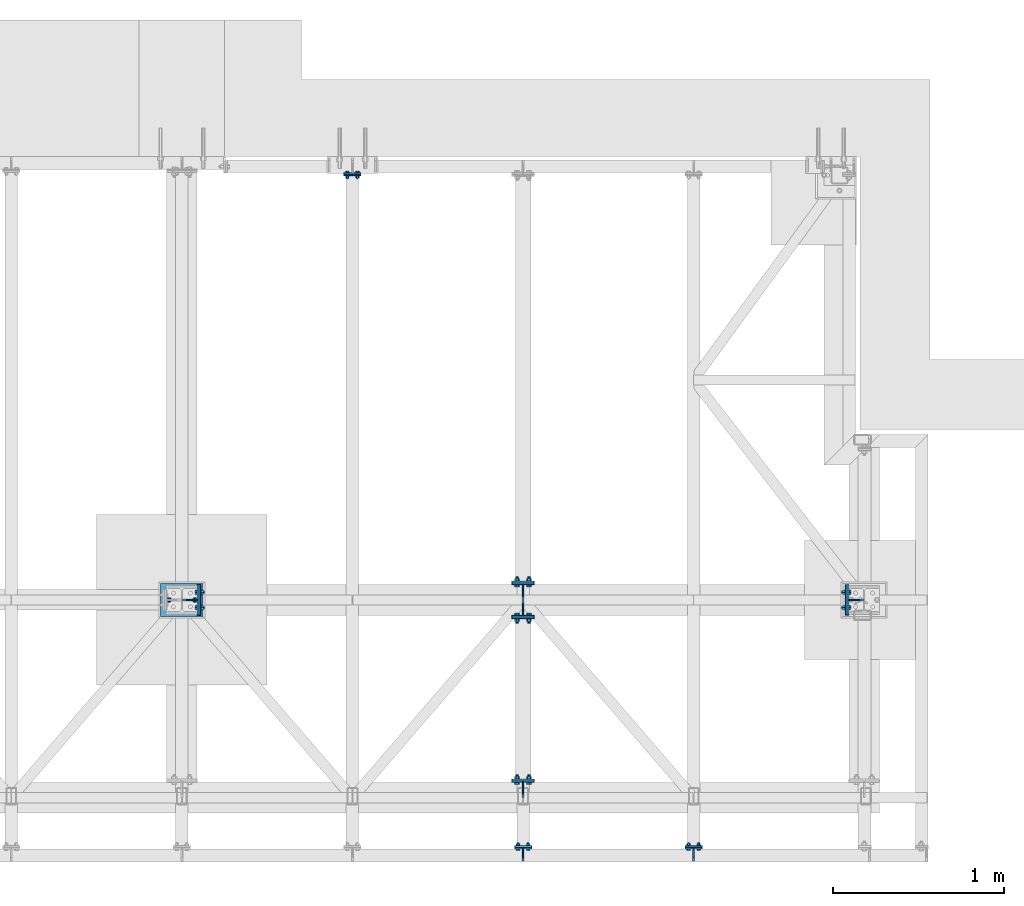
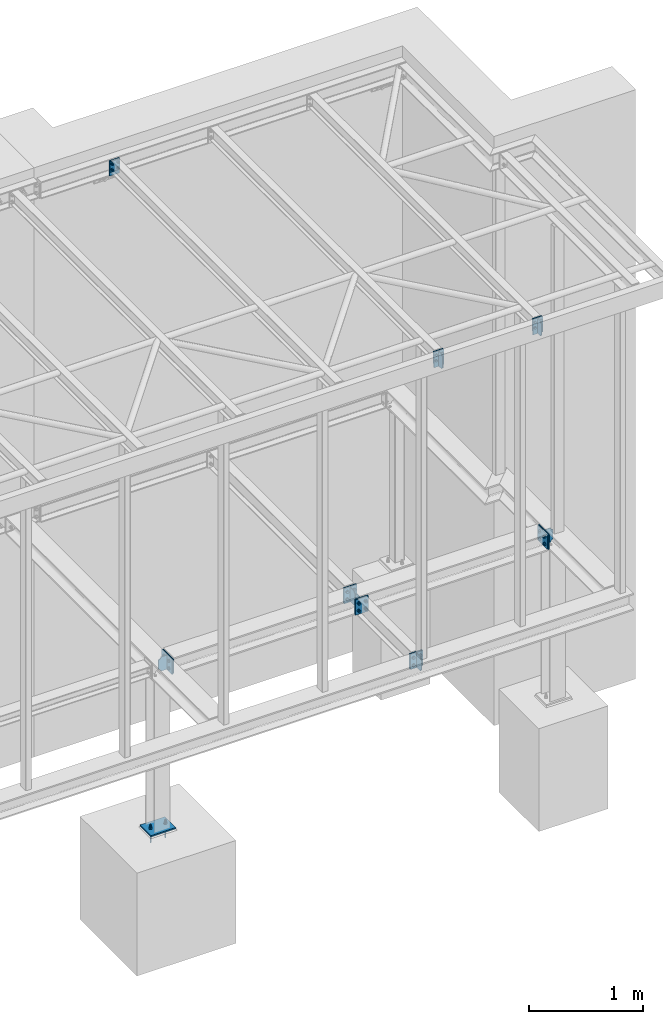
# One storey, part 18 of 23: 24 discrete accessories, 9 mechanical fasteners, 12 elements without a shape of their own.
"""IFC2X3 building model written with IfcOpenShell, lengths in millimetres."""

from ifc_helpers import new_model, si_unit, frame, frame_2d, origin_with_axes, origin_2d_with_axis, place, context, subcontext, project, spatial, polyline, circle_curve, parameter, trimmed, segment, composite_curve, circle, outline, extrude, source, transform, mapped, material, type_object, element, aggregate, save


model = new_model("IFC2X3")

# Units and contexts
model_context = context("Model", 3, precision=1e-05, world=origin_with_axes())
body_context = subcontext(model_context, "Body", "Model", "MODEL_VIEW")
ifc_project = project(units=[si_unit("LENGTHUNIT", "METRE", prefix="MILLI"), si_unit("AREAUNIT", "SQUARE_METRE"), si_unit("VOLUMEUNIT", "CUBIC_METRE"), si_unit("MASSUNIT", "GRAM", prefix="KILO"), si_unit("TIMEUNIT", "SECOND"), si_unit("PLANEANGLEUNIT", "RADIAN"), si_unit("SOLIDANGLEUNIT", "STERADIAN"), si_unit("THERMODYNAMICTEMPERATUREUNIT", "DEGREE_CELSIUS"), si_unit("LUMINOUSINTENSITYUNIT", "LUMEN")], contexts=[model_context])

# Site, building, storey
site_placement = place(None, origin_with_axes())
site = spatial("IfcSite", under=ifc_project, at=site_placement, Name="Undefined", CompositionType="ELEMENT")
building_placement = place(site_placement, origin_with_axes())
building = spatial("IfcBuilding", under=site, at=building_placement, Name="Undefined", CompositionType="ELEMENT")
storey_placement = place(building_placement, origin_with_axes())
storey = spatial("IfcBuildingStorey", under=building, at=storey_placement, Name="Undefined", CompositionType="ELEMENT", Elevation=0.0)

# Assembly, discrete accessories
assembly_1_placement = place(storey_placement, origin_with_axes())
assembly_1 = element("IfcElementAssembly", 1, at=assembly_1_placement, inside=storey, Name="Steel Assembly", AssemblyPlace="NOTDEFINED", PredefinedType="RIGID_FRAME")
ifc_material_1 = material(Name="STEEL/S235JR")
discrete_accessory_type_1 = type_object("IfcDiscreteAccessoryType", Name="PLECH")
discrete_accessory_1_placement = place(assembly_1_placement, frame((13985.0, 1355.0, -168.0), z_axis=(0.0, 1.0, 0.0), x_axis=(1.0, 0.0, 0.0)))
discrete_accessory_1 = element("IfcDiscreteAccessory", 2, at=discrete_accessory_1_placement, type_object=discrete_accessory_type_1, material=ifc_material_1, Name="PLECH", ObjectType="PL10*130", context=body_context, shape_type="SweptSolid", body=[
    extrude(outline(polyline([(0.0, 0.0), (130.0, 0.0), (130.0, 164.0), (0.0, 164.0), (0.0, 0.0)])), frame((0.0, 0.0, -5.0), z_axis=(0.0, 0.0, 1.0), x_axis=(1.0, 0.0, 0.0)), (0.0, 0.0, 1.0), 10.0),
])
discrete_accessory_2_placement = place(assembly_1_placement, frame((14050.0, 1350.0, -174.0), z_axis=(1.0, 0.0, 0.0), x_axis=(0.0, -1.0, 0.0)))
discrete_accessory_2 = element("IfcDiscreteAccessory", 3, at=discrete_accessory_2_placement, type_object=discrete_accessory_type_1, material=ifc_material_1, Name="PLECH", ObjectType="PL8*86", context=body_context, shape_type="SweptSolid", body=[
    extrude(outline(composite_curve([segment(polyline([(0.0, 0.0), (65.75, 0.0)]), True, "CONTINUOUS"), segment(trimmed(circle_curve(frame_2d((85.75, 0.0), x_axis=(-1.0, 0.0)), 20.0), [parameter(0.0)], [parameter(4.71238898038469)], False, "PARAMETER"), True, "CONTINUOUS"), segment(polyline([(85.75, 20.0), (85.75, 132.0)]), True, "CONTINUOUS"), segment(trimmed(circle_curve(frame_2d((85.75, 152.0), x_axis=(0.0, -1.0)), 20.0), [parameter(0.0)], [parameter(4.71238898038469)], False, "PARAMETER"), True, "CONTINUOUS"), segment(polyline([(65.75, 152.0), (0.0, 152.0), (0.0, 0.0)]), True, "DISCONTINUOUS")], self_intersect=False)), frame((0.0, 0.0, -4.0), z_axis=(0.0, 0.0, 1.0), x_axis=(1.0, 0.0, 0.0)), (0.0, 0.0, 1.0), 8.0),
])

# Assembly, discrete accessory
assembly_2_placement = place(storey_placement, origin_with_axes())
assembly_2 = element("IfcElementAssembly", 4, at=assembly_2_placement, inside=storey, Name="Steel Assembly", AssemblyPlace="NOTDEFINED", PredefinedType="RIGID_FRAME")
discrete_accessory_3_placement = place(assembly_2_placement, frame((13985.0, 1365.0, -168.0), z_axis=(0.0, 1.0, 0.0), x_axis=(1.0, 0.0, 0.0)))
discrete_accessory_3 = element("IfcDiscreteAccessory", 5, at=discrete_accessory_3_placement, type_object=discrete_accessory_type_1, material=ifc_material_1, Name="PLECH", ObjectType="PL10*130", context=body_context, shape_type="SweptSolid", body=[
    extrude(outline(polyline([(0.0, 0.0), (130.0, 0.0), (130.0, 164.0), (0.0, 164.0), (0.0, 0.0)])), frame((0.0, 0.0, -5.0), z_axis=(0.0, 0.0, 1.0), x_axis=(1.0, 0.0, 0.0)), (0.0, 0.0, 1.0), 10.0),
])
aggregate(assembly_2, [discrete_accessory_3])

# Discrete accessory
discrete_accessory_4_placement = place(assembly_1_placement, frame((13985.0, 1165.0, -168.0), z_axis=(0.0, 1.0, 0.0), x_axis=(1.0, 0.0, 0.0)))
discrete_accessory_4 = element("IfcDiscreteAccessory", 6, at=discrete_accessory_4_placement, type_object=discrete_accessory_type_1, material=ifc_material_1, Name="PLECH", ObjectType="PL10*130", context=body_context, shape_type="SweptSolid", body=[
    extrude(outline(polyline([(0.0, 0.0), (130.0, 0.0), (130.0, 164.0), (0.0, 164.0), (0.0, 0.0)])), frame((0.0, 0.0, -5.0), z_axis=(0.0, 0.0, 1.0), x_axis=(1.0, 0.0, 0.0)), (0.0, 0.0, 1.0), 10.0),
])

discrete_accessory_5_placement = place(assembly_1_placement, frame((14050.0, 1170.0, -174.0), z_axis=(-1.0, 0.0, 0.0), x_axis=(0.0, 1.0, 0.0)))
discrete_accessory_5 = element("IfcDiscreteAccessory", 7, at=discrete_accessory_5_placement, type_object=discrete_accessory_type_1, material=ifc_material_1, Name="PLECH", ObjectType="PL8*86", context=body_context, shape_type="SweptSolid", body=[
    extrude(outline(composite_curve([segment(polyline([(0.0, 0.0), (65.75, 0.0)]), True, "CONTINUOUS"), segment(trimmed(circle_curve(frame_2d((85.75, 0.0), x_axis=(-1.0, 0.0)), 20.0), [parameter(0.0)], [parameter(4.71238898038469)], False, "PARAMETER"), True, "CONTINUOUS"), segment(polyline([(85.75, 20.0), (85.75, 132.0)]), True, "CONTINUOUS"), segment(trimmed(circle_curve(frame_2d((85.75, 152.0), x_axis=(0.0, -1.0)), 20.0), [parameter(0.0)], [parameter(4.71238898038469)], False, "PARAMETER"), True, "CONTINUOUS"), segment(polyline([(65.75, 152.0), (0.0, 152.0), (0.0, 0.0)]), True, "DISCONTINUOUS")], self_intersect=False)), frame((0.0, 0.0, -4.0), z_axis=(0.0, 0.0, 1.0), x_axis=(1.0, 0.0, 0.0)), (0.0, 0.0, 1.0), 8.0),
])

# Assembly, discrete accessory
assembly_3_placement = place(storey_placement, origin_with_axes())
assembly_3 = element("IfcElementAssembly", 8, at=assembly_3_placement, inside=storey, Name="Steel Assembly", AssemblyPlace="NOTDEFINED", PredefinedType="RIGID_FRAME")
discrete_accessory_6_placement = place(assembly_3_placement, frame((13985.0, 1155.0, -168.0), z_axis=(0.0, 1.0, 0.0), x_axis=(1.0, 0.0, 0.0)))
discrete_accessory_6 = element("IfcDiscreteAccessory", 9, at=discrete_accessory_6_placement, type_object=discrete_accessory_type_1, material=ifc_material_1, Name="PLECH", ObjectType="PL10*130", context=body_context, shape_type="SweptSolid", body=[
    extrude(outline(polyline([(0.0, 0.0), (130.0, 0.0), (130.0, 164.0), (0.0, 164.0), (0.0, 0.0)])), frame((0.0, 0.0, -5.0), z_axis=(0.0, 0.0, 1.0), x_axis=(1.0, 0.0, 0.0)), (0.0, 0.0, 1.0), 10.0),
])

# Assembly, discrete accessories
assembly_4_placement = place(storey_placement, origin_with_axes())
assembly_4 = element("IfcElementAssembly", 10, at=assembly_4_placement, inside=storey, Name="Steel Assembly", AssemblyPlace="NOTDEFINED", PredefinedType="RIGID_FRAME")
discrete_accessory_7_placement = place(assembly_4_placement, frame((13985.0, 195.0, -168.0), z_axis=(0.0, 1.0, 0.0), x_axis=(1.0, 0.0, 0.0)))
discrete_accessory_7 = element("IfcDiscreteAccessory", 11, at=discrete_accessory_7_placement, type_object=discrete_accessory_type_1, material=ifc_material_1, Name="PLECH", ObjectType="PL10*130", context=body_context, shape_type="SweptSolid", body=[
    extrude(outline(polyline([(0.0, 0.0), (130.0, 0.0), (130.0, 164.0), (0.0, 164.0), (0.0, 0.0)])), frame((0.0, 0.0, -5.0), z_axis=(0.0, 0.0, 1.0), x_axis=(1.0, 0.0, 0.0)), (0.0, 0.0, 1.0), 10.0),
])
discrete_accessory_8_placement = place(assembly_4_placement, frame((14050.0, 190.0, -174.0), z_axis=(1.0, 0.0, 0.0), x_axis=(0.0, -1.0, 0.0)))
discrete_accessory_8 = element("IfcDiscreteAccessory", 12, at=discrete_accessory_8_placement, type_object=discrete_accessory_type_1, material=ifc_material_1, Name="PLECH", ObjectType="PL8*86", context=body_context, shape_type="SweptSolid", body=[
    extrude(outline(composite_curve([segment(polyline([(0.0, 0.0), (65.75, 0.0)]), True, "CONTINUOUS"), segment(trimmed(circle_curve(frame_2d((85.75, 0.0), x_axis=(-1.0, 0.0)), 20.0), [parameter(0.0)], [parameter(4.71238898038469)], False, "PARAMETER"), True, "CONTINUOUS"), segment(polyline([(85.75, 20.0), (85.75, 132.0)]), True, "CONTINUOUS"), segment(trimmed(circle_curve(frame_2d((85.75, 152.0), x_axis=(0.0, -1.0)), 20.0), [parameter(0.0)], [parameter(4.71238898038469)], False, "PARAMETER"), True, "CONTINUOUS"), segment(polyline([(65.75, 152.0), (0.0, 152.0), (0.0, 0.0)]), True, "DISCONTINUOUS")], self_intersect=False)), frame((0.0, 0.0, -4.0), z_axis=(0.0, 0.0, 1.0), x_axis=(1.0, 0.0, 0.0)), (0.0, 0.0, 1.0), 8.0),
])

# Discrete accessory
discrete_accessory_9_placement = place(assembly_3_placement, frame((13985.0, 205.0, -168.0), z_axis=(0.0, 1.0, 0.0), x_axis=(1.0, 0.0, 0.0)))
discrete_accessory_9 = element("IfcDiscreteAccessory", 13, at=discrete_accessory_9_placement, type_object=discrete_accessory_type_1, material=ifc_material_1, Name="PLECH", ObjectType="PL10*130", context=body_context, shape_type="SweptSolid", body=[
    extrude(outline(polyline([(0.0, 0.0), (130.0, 0.0), (130.0, 164.0), (0.0, 164.0), (0.0, 0.0)])), frame((0.0, 0.0, -5.0), z_axis=(0.0, 0.0, 1.0), x_axis=(1.0, 0.0, 0.0)), (0.0, 0.0, 1.0), 10.0),
])

aggregate(assembly_3, [discrete_accessory_6, discrete_accessory_9])

discrete_accessory_10_placement = place(assembly_1_placement, frame((15945.0, 1170.0, -326.0), z_axis=(-1.0, 0.0, 0.0), x_axis=(0.0, 0.0, 1.0)))
discrete_accessory_10 = element("IfcDiscreteAccessory", 14, at=discrete_accessory_10_placement, type_object=discrete_accessory_type_1, material=ifc_material_1, Name="PLECH", ObjectType="PL10*152", context=body_context, shape_type="SweptSolid", body=[
    extrude(outline(polyline([(0.0, 0.0), (152.0, 4.54747350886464e-13), (152.0, 180.0), (-5.6843418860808e-14, 180.0), (0.0, 0.0)])), frame((0.0, 0.0, -5.0), z_axis=(0.0, 0.0, 1.0), x_axis=(1.0, 0.0, 0.0)), (0.0, 0.0, 1.0), 10.0),
])

# Assembly, discrete accessory
assembly_5_placement = place(storey_placement, origin_with_axes())
assembly_5 = element("IfcElementAssembly", 15, at=assembly_5_placement, inside=storey, Name="Steel Assembly", AssemblyPlace="NOTDEFINED", PredefinedType="RIGID_FRAME")
discrete_accessory_11_placement = place(assembly_5_placement, frame((15050.0, -200.0, 3289.5), z_axis=(1.0, 0.0, 0.0), x_axis=(0.0, -1.0, 0.0)))
discrete_accessory_11 = element("IfcDiscreteAccessory", 16, at=discrete_accessory_11_placement, type_object=discrete_accessory_type_1, material=ifc_material_1, Name="PLECH", ObjectType="PL8*70", context=body_context, shape_type="SweptSolid", body=[
    extrude(outline(composite_curve([segment(polyline([(0.0, 0.0), (49.5, 0.0)]), True, "CONTINUOUS"), segment(trimmed(circle_curve(frame_2d((69.5, 0.0), x_axis=(-1.0, 0.0)), 20.0), [parameter(0.0)], [parameter(4.71238898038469)], False, "PARAMETER"), True, "CONTINUOUS"), segment(polyline([(69.5, 20.0), (69.5, 139.0)]), True, "CONTINUOUS"), segment(trimmed(circle_curve(frame_2d((69.5, 159.0), x_axis=(0.0, -1.0)), 20.0), [parameter(0.0)], [parameter(4.71238898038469)], False, "PARAMETER"), True, "CONTINUOUS"), segment(polyline([(49.5, 159.0), (0.0, 159.0), (0.0, 0.0)]), True, "DISCONTINUOUS")], self_intersect=False)), frame((0.0, 0.0, -4.0), z_axis=(0.0, 0.0, 1.0), x_axis=(1.0, 0.0, 0.0)), (0.0, 0.0, 1.0), 8.0),
])

assembly_6_placement = place(storey_placement, origin_with_axes())
assembly_6 = element("IfcElementAssembly", 17, at=assembly_6_placement, inside=storey, Name="Steel Assembly", AssemblyPlace="NOTDEFINED", PredefinedType="RIGID_FRAME")
discrete_accessory_12_placement = place(assembly_6_placement, frame((15000.0, -185.0, 3166.5), z_axis=(0.0, 1.0, 0.0), x_axis=(0.0, 0.0, 1.0)))
discrete_accessory_12 = element("IfcDiscreteAccessory", 18, at=discrete_accessory_12_placement, type_object=discrete_accessory_type_1, material=ifc_material_1, Name="PLECH", ObjectType="PL10*100", context=body_context, shape_type="SweptSolid", body=[
    extrude(outline(polyline([(0.0, 0.0), (127.0, 0.0), (127.0, 100.0), (-9.09494701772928e-13, 100.0), (0.0, 0.0)])), frame((0.0, 0.0, -5.0), z_axis=(0.0, 0.0, 1.0), x_axis=(1.0, 0.0, 0.0)), (0.0, 0.0, 1.0), 10.0),
])
aggregate(assembly_6, [discrete_accessory_12])

# Discrete accessory
discrete_accessory_13_placement = place(assembly_5_placement, frame((15000.0, -195.0, 3127.5), z_axis=(0.0, 1.0, 0.0), x_axis=(0.0, 0.0, 1.0)))
discrete_accessory_13 = element("IfcDiscreteAccessory", 19, at=discrete_accessory_13_placement, type_object=discrete_accessory_type_1, material=ifc_material_1, Name="PLECH", ObjectType="PL10*100", context=body_context, shape_type="SweptSolid", body=[
    extrude(outline(polyline([(0.0, 0.0), (166.000015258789, 0.0), (166.000015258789, 100.0), (-9.09494701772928e-13, 100.0), (0.0, 0.0)])), frame((0.0, 0.0, -5.0), z_axis=(0.0, 0.0, 1.0), x_axis=(1.0, 0.0, 0.0)), (0.0, 0.0, 1.0), 10.0),
])

discrete_accessory_14_placement = place(assembly_5_placement, frame((14050.0, -200.0, 3289.5), z_axis=(1.0, 0.0, 0.0), x_axis=(0.0, -1.0, 0.0)))
discrete_accessory_14 = element("IfcDiscreteAccessory", 20, at=discrete_accessory_14_placement, type_object=discrete_accessory_type_1, material=ifc_material_1, Name="PLECH", ObjectType="PL8*70", context=body_context, shape_type="SweptSolid", body=[
    extrude(outline(composite_curve([segment(polyline([(0.0, 0.0), (49.5, 0.0)]), True, "CONTINUOUS"), segment(trimmed(circle_curve(frame_2d((69.5, 0.0), x_axis=(-1.0, 0.0)), 20.0), [parameter(0.0)], [parameter(4.71238898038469)], False, "PARAMETER"), True, "CONTINUOUS"), segment(polyline([(69.5, 20.0), (69.5, 139.0)]), True, "CONTINUOUS"), segment(trimmed(circle_curve(frame_2d((69.5, 159.0), x_axis=(0.0, -1.0)), 20.0), [parameter(0.0)], [parameter(4.71238898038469)], False, "PARAMETER"), True, "CONTINUOUS"), segment(polyline([(49.5, 159.0), (0.0, 159.0), (0.0, 0.0)]), True, "DISCONTINUOUS")], self_intersect=False)), frame((0.0, 0.0, -4.0), z_axis=(0.0, 0.0, 1.0), x_axis=(1.0, 0.0, 0.0)), (0.0, 0.0, 1.0), 8.0),
])

# Assembly, discrete accessory
assembly_7_placement = place(storey_placement, origin_with_axes())
assembly_7 = element("IfcElementAssembly", 21, at=assembly_7_placement, inside=storey, Name="Steel Assembly", AssemblyPlace="NOTDEFINED", PredefinedType="RIGID_FRAME")
discrete_accessory_15_placement = place(assembly_7_placement, frame((14000.0, -185.0, 3166.5), z_axis=(0.0, 1.0, 0.0), x_axis=(0.0, 0.0, 1.0)))
discrete_accessory_15 = element("IfcDiscreteAccessory", 22, at=discrete_accessory_15_placement, type_object=discrete_accessory_type_1, material=ifc_material_1, Name="PLECH", ObjectType="PL10*100", context=body_context, shape_type="SweptSolid", body=[
    extrude(outline(polyline([(0.0, 0.0), (127.0, 0.0), (127.0, 100.0), (-9.09494701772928e-13, 100.0), (0.0, 0.0)])), frame((0.0, 0.0, -5.0), z_axis=(0.0, 0.0, 1.0), x_axis=(1.0, 0.0, 0.0)), (0.0, 0.0, 1.0), 10.0),
])
aggregate(assembly_7, [discrete_accessory_15])

# Discrete accessory
discrete_accessory_16_placement = place(assembly_5_placement, frame((14000.0, -195.0, 3127.5), z_axis=(0.0, 1.0, 0.0), x_axis=(0.0, 0.0, 1.0)))
discrete_accessory_16 = element("IfcDiscreteAccessory", 23, at=discrete_accessory_16_placement, type_object=discrete_accessory_type_1, material=ifc_material_1, Name="PLECH", ObjectType="PL10*100", context=body_context, shape_type="SweptSolid", body=[
    extrude(outline(polyline([(0.0, 0.0), (166.000015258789, 0.0), (166.000015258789, 100.0), (-9.09494701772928e-13, 100.0), (0.0, 0.0)])), frame((0.0, 0.0, -5.0), z_axis=(0.0, 0.0, 1.0), x_axis=(1.0, 0.0, 0.0)), (0.0, 0.0, 1.0), 10.0),
])

# Assembly, discrete accessories
assembly_8_placement = place(storey_placement, origin_with_axes())
assembly_8 = element("IfcElementAssembly", 24, at=assembly_8_placement, inside=storey, Name="Steel Assembly", AssemblyPlace="NOTDEFINED", PredefinedType="RIGID_FRAME")
discrete_accessory_17_placement = place(assembly_8_placement, frame((15960.0, 1260.0, -174.0), z_axis=(0.0, 1.0, 0.0), x_axis=(1.0, 0.0, 0.0)))
discrete_accessory_17 = element("IfcDiscreteAccessory", 25, at=discrete_accessory_17_placement, type_object=discrete_accessory_type_1, material=ifc_material_1, Name="PLECH", ObjectType="PL8*86", context=body_context, shape_type="SweptSolid", body=[
    extrude(outline(composite_curve([segment(polyline([(0.0, 0.0), (60.5, 0.0)]), True, "CONTINUOUS"), segment(trimmed(circle_curve(frame_2d((85.5, 0.0), x_axis=(-1.0, 0.0)), 25.0), [parameter(0.0)], [parameter(4.71238898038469)], False, "PARAMETER"), True, "CONTINUOUS"), segment(polyline([(85.5, 25.0), (85.5, 127.0)]), True, "CONTINUOUS"), segment(trimmed(circle_curve(frame_2d((85.5, 152.0), x_axis=(0.0, -1.0)), 25.0), [parameter(0.0)], [parameter(4.71238898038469)], False, "PARAMETER"), True, "CONTINUOUS"), segment(polyline([(60.5, 152.0), (0.0, 152.0), (0.0, 0.0)]), True, "DISCONTINUOUS")], self_intersect=False)), frame((0.0, 0.0, -4.0), z_axis=(0.0, 0.0, 1.0), x_axis=(1.0, 0.0, 0.0)), (0.0, 0.0, 1.0), 8.0),
])
discrete_accessory_18_placement = place(assembly_8_placement, frame((15955.0, 1170.0, -332.0), z_axis=(-1.0, 0.0, 0.0), x_axis=(0.0, 0.0, 1.0)))
discrete_accessory_18 = element("IfcDiscreteAccessory", 26, at=discrete_accessory_18_placement, type_object=discrete_accessory_type_1, material=ifc_material_1, Name="PLECH", ObjectType="PL10*164", context=body_context, shape_type="SweptSolid", body=[
    extrude(outline(polyline([(0.0, 0.0), (164.0, 4.54747350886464e-13), (164.0, 180.0), (-5.6843418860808e-14, 180.0), (0.0, 0.0)])), frame((0.0, 0.0, -5.0), z_axis=(0.0, 0.0, 1.0), x_axis=(1.0, 0.0, 0.0)), (0.0, 0.0, 1.0), 10.0),
])

# Discrete accessory
discrete_accessory_19_placement = place(assembly_1_placement, frame((12155.0, 1170.0, -326.0), z_axis=(-1.0, 0.0, 0.0), x_axis=(0.0, 0.0, 1.0)))
discrete_accessory_19 = element("IfcDiscreteAccessory", 27, at=discrete_accessory_19_placement, type_object=discrete_accessory_type_1, material=ifc_material_1, Name="PLECH", ObjectType="PL10*152", context=body_context, shape_type="SweptSolid", body=[
    extrude(outline(polyline([(0.0, 0.0), (152.0, 4.54747350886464e-13), (152.0, 180.0), (-5.6843418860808e-14, 180.0), (0.0, 0.0)])), frame((0.0, 0.0, -5.0), z_axis=(0.0, 0.0, 1.0), x_axis=(1.0, 0.0, 0.0)), (0.0, 0.0, 1.0), 10.0),
])

# Assembly, discrete accessories
assembly_9_placement = place(storey_placement, origin_with_axes())
assembly_9 = element("IfcElementAssembly", 28, at=assembly_9_placement, inside=storey, Name="Steel Assembly", AssemblyPlace="NOTDEFINED", PredefinedType="RIGID_FRAME")
discrete_accessory_20_placement = place(assembly_9_placement, frame((12140.0, 1260.0, -174.0), z_axis=(0.0, -1.0, 0.0), x_axis=(-1.0, 0.0, 0.0)))
discrete_accessory_20 = element("IfcDiscreteAccessory", 29, at=discrete_accessory_20_placement, type_object=discrete_accessory_type_1, material=ifc_material_1, Name="PLECH", ObjectType="PL8*86", context=body_context, shape_type="SweptSolid", body=[
    extrude(outline(composite_curve([segment(polyline([(0.0, 0.0), (60.5, 0.0)]), True, "CONTINUOUS"), segment(trimmed(circle_curve(frame_2d((85.5, 0.0), x_axis=(-1.0, 0.0)), 25.0), [parameter(0.0)], [parameter(4.71238898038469)], False, "PARAMETER"), True, "CONTINUOUS"), segment(polyline([(85.5, 25.0), (85.5, 127.0)]), True, "CONTINUOUS"), segment(trimmed(circle_curve(frame_2d((85.5, 152.0), x_axis=(0.0, -1.0)), 25.0), [parameter(0.0)], [parameter(4.71238898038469)], False, "PARAMETER"), True, "CONTINUOUS"), segment(polyline([(60.5, 152.0), (0.0, 152.0), (0.0, 0.0)]), True, "DISCONTINUOUS")], self_intersect=False)), frame((0.0, 0.0, -4.0), z_axis=(0.0, 0.0, 1.0), x_axis=(1.0, 0.0, 0.0)), (0.0, 0.0, 1.0), 8.0),
])
discrete_accessory_21_placement = place(assembly_9_placement, frame((12145.0, 1170.0, -332.0), z_axis=(-1.0, 0.0, 0.0), x_axis=(0.0, 0.0, 1.0)))
discrete_accessory_21 = element("IfcDiscreteAccessory", 30, at=discrete_accessory_21_placement, type_object=discrete_accessory_type_1, material=ifc_material_1, Name="PLECH", ObjectType="PL10*164", context=body_context, shape_type="SweptSolid", body=[
    extrude(outline(polyline([(0.0, 0.0), (164.0, 4.54747350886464e-13), (164.0, 180.0), (-5.6843418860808e-14, 180.0), (0.0, 0.0)])), frame((0.0, 0.0, -5.0), z_axis=(0.0, 0.0, 1.0), x_axis=(1.0, 0.0, 0.0)), (0.0, 0.0, 1.0), 10.0),
])

# Assembly, discrete accessory
assembly_10_placement = place(storey_placement, origin_with_axes())
assembly_10 = element("IfcElementAssembly", 31, at=assembly_10_placement, inside=storey, Name="Steel Assembly", AssemblyPlace="NOTDEFINED", PredefinedType="RIGID_FRAME")
discrete_accessory_22_placement = place(assembly_10_placement, frame((12175.0, 1356.0, -1982.5), z_axis=(0.0, 0.0, 1.0), x_axis=(-1.0, 0.0, 0.0)))
discrete_accessory_22 = element("IfcDiscreteAccessory", 32, at=discrete_accessory_22_placement, type_object=discrete_accessory_type_1, material=ifc_material_1, Name="PLECH", ObjectType="PL15*192", context=body_context, shape_type="SweptSolid", body=[
    extrude(outline(polyline([(0.0, 0.0), (250.0, 0.0), (250.0, 192.0), (0.0, 192.0), (0.0, 0.0)])), frame((0.0, 0.0, -7.5), z_axis=(0.0, 0.0, 1.0), x_axis=(1.0, 0.0, 0.0)), (0.0, 0.0, 1.0), 15.0),
])

assembly_11_placement = place(storey_placement, origin_with_axes())
assembly_11 = element("IfcElementAssembly", 33, at=assembly_11_placement, inside=storey, Name="Steel Assembly", AssemblyPlace="NOTDEFINED", PredefinedType="RIGID_FRAME")
discrete_accessory_23_placement = place(assembly_11_placement, frame((13000.0, 3751.0, 3175.0), z_axis=(0.0, 1.0, 0.0), x_axis=(0.0, 0.0, 1.0)))
discrete_accessory_23 = element("IfcDiscreteAccessory", 34, at=discrete_accessory_23_placement, type_object=discrete_accessory_type_1, material=ifc_material_1, Name="PLECH", ObjectType="PL8*100", context=body_context, shape_type="SweptSolid", body=[
    extrude(outline(polyline([(0.0, 0.0), (110.0, 0.0), (110.0, 100.0), (-9.09494701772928e-13, 100.0), (0.0, 0.0)])), frame((0.0, 0.0, -4.0), z_axis=(0.0, 0.0, 1.0), x_axis=(1.0, 0.0, 0.0)), (0.0, 0.0, 1.0), 8.0),
])
aggregate(assembly_11, [discrete_accessory_23])

assembly_12_placement = place(storey_placement, origin_with_axes())
assembly_12 = element("IfcElementAssembly", 35, at=assembly_12_placement, inside=storey, Name="Steel Assembly", AssemblyPlace="NOTDEFINED", PredefinedType="RIGID_FRAME")
discrete_accessory_24_placement = place(assembly_12_placement, frame((13000.0, 3760.0, 3128.0), z_axis=(0.0, 1.0, 0.0), x_axis=(0.0, 0.0, 1.0)))
discrete_accessory_24 = element("IfcDiscreteAccessory", 36, at=discrete_accessory_24_placement, type_object=discrete_accessory_type_1, material=ifc_material_1, Name="PLECH", ObjectType="PL10*100", context=body_context, shape_type="SweptSolid", body=[
    extrude(outline(polyline([(0.0, 0.0), (164.0, 4.54747350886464e-13), (164.0, 100.0), (-9.09494701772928e-13, 100.0), (0.0, 0.0)])), frame((0.0, 0.0, -5.0), z_axis=(0.0, 0.0, 1.0), x_axis=(1.0, 0.0, 0.0)), (0.0, 0.0, 1.0), 10.0),
])

# Mechanical fastener
ifc_material_2 = material(Name="Undefined")
discrete_accessory_type_2 = type_object("IfcDiscreteAccessoryType", Name="Bolt assembly")
shared_shape_1 = source(origin_with_axes(), body_context, "Body", "SweptSolid", [
    extrude(circle(Radius=9.0, at=origin_2d_with_axis()), frame((0.0, -15.0, 0.0), z_axis=(0.0, 1.0, 0.0), x_axis=(1.0, 0.0, 0.0)), (0.0, 0.0, 1.0), 15.1),
    extrude(outline(polyline([(7.73649338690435, 0.0), (3.86824669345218, 6.69999980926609), (-3.86824669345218, 6.69999980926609), (-7.73649338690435, 0.0), (-3.86824669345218, -6.69999980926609), (3.86824669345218, -6.69999980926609), (7.73649338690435, 0.0)])), frame((0.0, -147.0, 0.0), z_axis=(0.0, 1.0, 0.0), x_axis=(1.0, 0.0, 0.0)), (0.0, 0.0, 1.0), 132.0),
    extrude(circle(Radius=8.0, at=origin_2d_with_axis()), frame((0.0, -15.0, 0.0), z_axis=(0.0, 1.0, 0.0), x_axis=(1.0, 0.0, 0.0)), (0.0, 0.0, 1.0), 58.0),
    extrude(circle(Radius=15.0, at=origin_2d_with_axis()), frame((0.0, 0.0, 0.0), z_axis=(0.0, 1.0, 0.0), x_axis=(1.0, 0.0, 0.0)), (0.0, 0.0, 1.0), 3.0),
    extrude(outline(polyline([(15.4441197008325, 0.0), (7.72205985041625, 13.3750000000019), (-7.72205985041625, 13.3750000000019), (-15.4441197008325, 0.0), (-7.72205985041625, -13.3750000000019), (7.72205985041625, -13.3750000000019), (15.4441197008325, 0.0)])), frame((0.0, 3.0, 0.0), z_axis=(0.0, 1.0, 0.0), x_axis=(1.0, 0.0, 0.0)), (0.0, 0.0, 1.0), 13.0),
])
mechanical_fastener_1_placement = place(assembly_10_placement, frame((11975.0, 1260.0, -1975.0), z_axis=(0.0, -1.0, 0.0), x_axis=(1.0, 0.0, 0.0)))
mechanical_fastener_1 = element("IfcMechanicalFastener", 37, at=mechanical_fastener_1_placement, type_object=discrete_accessory_type_2, material=ifc_material_2, Name="Bolt assembly", NominalDiameter=16.0, NominalLength=58.0, context=body_context, shape_type="MappedRepresentation", body=[
    mapped(shared_shape_1, transform((0.0, 0.0, 0.0))),
    mapped(shared_shape_1, transform((150.0, 0.0, 0.0))),
])

aggregate(assembly_10, [mechanical_fastener_1, discrete_accessory_22])

shared_shape_2 = source(origin_with_axes(), body_context, "Body", "SweptSolid", [
    extrude(circle(Radius=9.0, at=origin_2d_with_axis()), frame((0.0, -0.1, 0.0), z_axis=(0.0, 1.0, 0.0), x_axis=(1.0, 0.0, 0.0)), (0.0, 0.0, 1.0), 10.1),
    extrude(circle(Radius=9.0, at=origin_2d_with_axis()), frame((0.0, -9.9, 0.0), z_axis=(0.0, 1.0, 0.0), x_axis=(1.0, 0.0, 0.0)), (0.0, 0.0, 1.0), 10.0),
    extrude(outline(polyline([(13.85640646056, 0.0), (6.92820323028, 12.0000000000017), (-6.92820323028, 12.0000000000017), (-13.85640646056, 0.0), (-6.92820323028, -12.0000000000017), (6.92820323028, -12.0000000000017), (13.85640646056, 0.0)])), frame((0.0, -23.0, 0.0), z_axis=(0.0, 1.0, 0.0), x_axis=(1.0, 0.0, 0.0)), (0.0, 0.0, 1.0), 10.0),
    extrude(circle(Radius=8.0, at=origin_2d_with_axis()), frame((0.0, -13.0, 0.0), z_axis=(0.0, 1.0, 0.0), x_axis=(1.0, 0.0, 0.0)), (0.0, 0.0, 1.0), 50.0),
    extrude(circle(Radius=15.0, at=origin_2d_with_axis()), frame((0.0, -13.0, 0.0), z_axis=(0.0, 1.0, 0.0), x_axis=(1.0, 0.0, 0.0)), (0.0, 0.0, 1.0), 3.0),
    extrude(circle(Radius=15.0, at=origin_2d_with_axis()), frame((0.0, 10.0, 0.0), z_axis=(0.0, 1.0, 0.0), x_axis=(1.0, 0.0, 0.0)), (0.0, 0.0, 1.0), 3.0),
    extrude(outline(polyline([(15.4441197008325, 0.0), (7.72205985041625, 13.3750000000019), (-7.72205985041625, 13.3750000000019), (-15.4441197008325, 0.0), (-7.72205985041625, -13.3750000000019), (7.72205985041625, -13.3750000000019), (15.4441197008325, 0.0)])), frame((0.0, 13.0, 0.0), z_axis=(0.0, 1.0, 0.0), x_axis=(1.0, 0.0, 0.0)), (0.0, 0.0, 1.0), 13.0),
])
mechanical_fastener_2_placement = place(assembly_1_placement, frame((14015.0, 1360.0, -250.0), z_axis=(0.0, 0.0, 1.0), x_axis=(1.0, 0.0, 0.0)))
mechanical_fastener_2 = element("IfcMechanicalFastener", 38, at=mechanical_fastener_2_placement, type_object=discrete_accessory_type_2, material=ifc_material_2, Name="Bolt assembly", NominalDiameter=16.0, NominalLength=50.0, context=body_context, shape_type="MappedRepresentation", body=[
    mapped(shared_shape_2, transform((0.0, 0.0, -40.0))),
    mapped(shared_shape_2, transform((70.0, 0.0, -40.0))),
    mapped(shared_shape_2, transform((0.0, 0.0, 40.0))),
    mapped(shared_shape_2, transform((70.0, 0.0, 40.0))),
])

mechanical_fastener_3_placement = place(assembly_1_placement, frame((14015.0, 1160.0, -250.0), z_axis=(0.0, 0.0, -1.0), x_axis=(1.0, 0.0, 0.0)))
mechanical_fastener_3 = element("IfcMechanicalFastener", 39, at=mechanical_fastener_3_placement, type_object=discrete_accessory_type_2, material=ifc_material_2, Name="Bolt assembly", NominalDiameter=16.0, NominalLength=50.0, context=body_context, shape_type="MappedRepresentation", body=[
    mapped(shared_shape_2, transform((0.0, 0.0, 40.0))),
    mapped(shared_shape_2, transform((70.0, 0.0, 40.0))),
    mapped(shared_shape_2, transform((0.0, 0.0, -40.0))),
    mapped(shared_shape_2, transform((70.0, 0.0, -40.0))),
])

aggregate(assembly_1, [mechanical_fastener_2, discrete_accessory_1, discrete_accessory_2, mechanical_fastener_3, discrete_accessory_4, discrete_accessory_5, discrete_accessory_10, discrete_accessory_19])

mechanical_fastener_4_placement = place(assembly_4_placement, frame((14015.0, 200.0, -250.0), z_axis=(0.0, 0.0, 1.0), x_axis=(1.0, 0.0, 0.0)))
mechanical_fastener_4 = element("IfcMechanicalFastener", 40, at=mechanical_fastener_4_placement, type_object=discrete_accessory_type_2, material=ifc_material_2, Name="Bolt assembly", NominalDiameter=16.0, NominalLength=50.0, context=body_context, shape_type="MappedRepresentation", body=[
    mapped(shared_shape_2, transform((0.0, 0.0, -40.0))),
    mapped(shared_shape_2, transform((70.0, 0.0, -40.0))),
    mapped(shared_shape_2, transform((0.0, 0.0, 40.0))),
    mapped(shared_shape_2, transform((70.0, 0.0, 40.0))),
])

aggregate(assembly_4, [mechanical_fastener_4, discrete_accessory_7, discrete_accessory_8])

shared_shape_3 = source(origin_with_axes(), body_context, "Body", "SweptSolid", [
    extrude(circle(Radius=8.5, at=origin_2d_with_axis()), frame((0.0, -4.1, 0.0), z_axis=(0.0, 1.0, 0.0), x_axis=(1.0, 0.0, 0.0)), (0.0, 0.0, 1.0), 10.1),
    extrude(circle(Radius=8.5, at=origin_2d_with_axis()), frame((0.0, -13.9, 0.0), z_axis=(0.0, 1.0, 0.0), x_axis=(1.0, 0.0, 0.0)), (0.0, 0.0, 1.0), 10.0),
    extrude(outline(polyline([(13.85640646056, 0.0), (6.92820323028, 12.0000000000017), (-6.92820323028, 12.0000000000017), (-13.85640646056, 0.0), (-6.92820323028, -12.0000000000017), (6.92820323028, -12.0000000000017), (13.85640646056, 0.0)])), frame((0.0, -27.0, 0.0), z_axis=(0.0, 1.0, 0.0), x_axis=(1.0, 0.0, 0.0)), (0.0, 0.0, 1.0), 10.0),
    extrude(circle(Radius=8.0, at=origin_2d_with_axis()), frame((0.0, -17.0, 0.0), z_axis=(0.0, 1.0, 0.0), x_axis=(1.0, 0.0, 0.0)), (0.0, 0.0, 1.0), 45.0),
    extrude(circle(Radius=15.0, at=origin_2d_with_axis()), frame((0.0, -17.0, 0.0), z_axis=(0.0, 1.0, 0.0), x_axis=(1.0, 0.0, 0.0)), (0.0, 0.0, 1.0), 3.0),
    extrude(circle(Radius=15.0, at=origin_2d_with_axis()), frame((0.0, 6.0, 0.0), z_axis=(0.0, 1.0, 0.0), x_axis=(1.0, 0.0, 0.0)), (0.0, 0.0, 1.0), 3.0),
    extrude(outline(polyline([(15.4441197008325, 0.0), (7.72205985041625, 13.3750000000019), (-7.72205985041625, 13.3750000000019), (-15.4441197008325, 0.0), (-7.72205985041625, -13.3750000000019), (7.72205985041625, -13.3750000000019), (15.4441197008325, 0.0)])), frame((0.0, 9.0, 0.0), z_axis=(0.0, 1.0, 0.0), x_axis=(1.0, 0.0, 0.0)), (0.0, 0.0, 1.0), 13.0),
])
mechanical_fastener_5_placement = place(assembly_8_placement, frame((15946.0, 1260.0, -210.0), z_axis=(0.0, 1.0, 0.0), x_axis=(0.0, 0.0, -1.0)))
mechanical_fastener_5 = element("IfcMechanicalFastener", 41, at=mechanical_fastener_5_placement, type_object=discrete_accessory_type_2, material=ifc_material_2, Name="Bolt assembly", NominalDiameter=16.0, NominalLength=45.0, context=body_context, shape_type="MappedRepresentation", body=[
    mapped(shared_shape_3, transform((0.0, 0.0, -45.0))),
    mapped(shared_shape_3, transform((80.0, 0.0, -45.0))),
    mapped(shared_shape_3, transform((0.0, 0.0, 45.0))),
    mapped(shared_shape_3, transform((80.0, 0.0, 45.0))),
])

aggregate(assembly_8, [mechanical_fastener_5, discrete_accessory_17, discrete_accessory_18])

mechanical_fastener_6_placement = place(assembly_9_placement, frame((12154.0, 1260.0, -210.0), z_axis=(0.0, -1.0, 0.0), x_axis=(0.0, 0.0, -1.0)))
mechanical_fastener_6 = element("IfcMechanicalFastener", 42, at=mechanical_fastener_6_placement, type_object=discrete_accessory_type_2, material=ifc_material_2, Name="Bolt assembly", NominalDiameter=16.0, NominalLength=45.0, context=body_context, shape_type="MappedRepresentation", body=[
    mapped(shared_shape_3, transform((0.0, 0.0, -45.0))),
    mapped(shared_shape_3, transform((80.0, 0.0, -45.0))),
    mapped(shared_shape_3, transform((0.0, 0.0, 45.0))),
    mapped(shared_shape_3, transform((80.0, 0.0, 45.0))),
])

aggregate(assembly_9, [mechanical_fastener_6, discrete_accessory_20, discrete_accessory_21])

shared_shape_4 = source(origin_with_axes(), body_context, "Body", "SweptSolid", [
    extrude(circle(Radius=6.5, at=origin_2d_with_axis()), frame((0.0, -0.1, 0.0), z_axis=(0.0, 1.0, 0.0), x_axis=(1.0, 0.0, 0.0)), (0.0, 0.0, 1.0), 10.1),
    extrude(circle(Radius=6.5, at=origin_2d_with_axis()), frame((0.0, -9.9, 0.0), z_axis=(0.0, 1.0, 0.0), x_axis=(1.0, 0.0, 0.0)), (0.0, 0.0, 1.0), 10.0),
    extrude(outline(polyline([(10.96965511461, 0.0), (5.484827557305, 9.50000000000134), (-5.484827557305, 9.50000000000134), (-10.96965511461, 0.0), (-5.484827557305, -9.50000000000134), (5.484827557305, -9.50000000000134), (10.96965511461, 0.0)])), frame((0.0, -20.0, 0.0), z_axis=(0.0, 1.0, 0.0), x_axis=(1.0, 0.0, 0.0)), (0.0, 0.0, 1.0), 7.5),
    extrude(circle(Radius=6.0, at=origin_2d_with_axis()), frame((0.0, -12.5, 0.0), z_axis=(0.0, 1.0, 0.0), x_axis=(1.0, 0.0, 0.0)), (0.0, 0.0, 1.0), 40.0),
    extrude(circle(Radius=12.0, at=origin_2d_with_axis()), frame((0.0, -12.5, 0.0), z_axis=(0.0, 1.0, 0.0), x_axis=(1.0, 0.0, 0.0)), (0.0, 0.0, 1.0), 2.5),
    extrude(circle(Radius=12.0, at=origin_2d_with_axis()), frame((0.0, 10.0, 0.0), z_axis=(0.0, 1.0, 0.0), x_axis=(1.0, 0.0, 0.0)), (0.0, 0.0, 1.0), 2.5),
    extrude(outline(polyline([(10.96965511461, 0.0), (5.484827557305, 9.50000000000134), (-5.484827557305, 9.50000000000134), (-10.96965511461, 0.0), (-5.484827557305, -9.50000000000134), (5.484827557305, -9.50000000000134), (10.96965511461, 0.0)])), frame((0.0, 12.5, 0.0), z_axis=(0.0, 1.0, 0.0), x_axis=(1.0, 0.0, 0.0)), (0.0, 0.0, 1.0), 10.0),
])
mechanical_fastener_7_placement = place(assembly_5_placement, frame((15020.0, -190.0, 3230.0), z_axis=(0.0, 0.0, 1.0), x_axis=(1.0, 0.0, 0.0)))
mechanical_fastener_7 = element("IfcMechanicalFastener", 43, at=mechanical_fastener_7_placement, type_object=discrete_accessory_type_2, material=ifc_material_2, Name="Bolt assembly", NominalDiameter=12.0, NominalLength=40.0, context=body_context, shape_type="MappedRepresentation", body=[
    mapped(shared_shape_4, transform((0.0, 0.0, 30.0))),
    mapped(shared_shape_4, transform((60.0, 0.0, 30.0))),
    mapped(shared_shape_4, transform((0.0, 0.0, -30.0))),
    mapped(shared_shape_4, transform((60.0, 0.0, -30.0))),
])

mechanical_fastener_8_placement = place(assembly_5_placement, frame((14020.0, -190.0, 3230.0), z_axis=(0.0, 0.0, 1.0), x_axis=(1.0, 0.0, 0.0)))
mechanical_fastener_8 = element("IfcMechanicalFastener", 44, at=mechanical_fastener_8_placement, type_object=discrete_accessory_type_2, material=ifc_material_2, Name="Bolt assembly", NominalDiameter=12.0, NominalLength=40.0, context=body_context, shape_type="MappedRepresentation", body=[
    mapped(shared_shape_4, transform((0.0, 0.0, 30.0))),
    mapped(shared_shape_4, transform((60.0, 0.0, 30.0))),
    mapped(shared_shape_4, transform((0.0, 0.0, -30.0))),
    mapped(shared_shape_4, transform((60.0, 0.0, -30.0))),
])

aggregate(assembly_5, [mechanical_fastener_7, discrete_accessory_11, discrete_accessory_13, mechanical_fastener_8, discrete_accessory_14, discrete_accessory_16])

shared_shape_5 = source(origin_with_axes(), body_context, "Body", "SweptSolid", [
    extrude(circle(Radius=6.5, at=origin_2d_with_axis()), frame((0.0, -0.1, 0.0), z_axis=(0.0, 1.0, 0.0), x_axis=(1.0, 0.0, 0.0)), (0.0, 0.0, 1.0), 8.1),
    extrude(circle(Radius=6.5, at=origin_2d_with_axis()), frame((0.0, -9.9, 0.0), z_axis=(0.0, 1.0, 0.0), x_axis=(1.0, 0.0, 0.0)), (0.0, 0.0, 1.0), 10.0),
    extrude(outline(polyline([(10.96965511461, 0.0), (5.484827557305, 9.50000000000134), (-5.484827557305, 9.50000000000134), (-10.96965511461, 0.0), (-5.484827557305, -9.50000000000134), (5.484827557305, -9.50000000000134), (10.96965511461, 0.0)])), frame((0.0, -20.0, 0.0), z_axis=(0.0, 1.0, 0.0), x_axis=(1.0, 0.0, 0.0)), (0.0, 0.0, 1.0), 7.5),
    extrude(circle(Radius=6.0, at=origin_2d_with_axis()), frame((0.0, -12.5, 0.0), z_axis=(0.0, 1.0, 0.0), x_axis=(1.0, 0.0, 0.0)), (0.0, 0.0, 1.0), 40.0),
    extrude(circle(Radius=12.0, at=origin_2d_with_axis()), frame((0.0, -12.5, 0.0), z_axis=(0.0, 1.0, 0.0), x_axis=(1.0, 0.0, 0.0)), (0.0, 0.0, 1.0), 2.5),
    extrude(circle(Radius=12.0, at=origin_2d_with_axis()), frame((0.0, 8.0, 0.0), z_axis=(0.0, 1.0, 0.0), x_axis=(1.0, 0.0, 0.0)), (0.0, 0.0, 1.0), 2.5),
    extrude(outline(polyline([(10.96965511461, 0.0), (5.484827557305, 9.50000000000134), (-5.484827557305, 9.50000000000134), (-10.96965511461, 0.0), (-5.484827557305, -9.50000000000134), (5.484827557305, -9.50000000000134), (10.96965511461, 0.0)])), frame((0.0, 10.5, 0.0), z_axis=(0.0, 1.0, 0.0), x_axis=(1.0, 0.0, 0.0)), (0.0, 0.0, 1.0), 10.0),
])
mechanical_fastener_9_placement = place(assembly_12_placement, frame((13020.0, 3755.0, 3230.0), z_axis=(0.0, 0.0, -1.0), x_axis=(1.0, 0.0, 0.0)))
mechanical_fastener_9 = element("IfcMechanicalFastener", 45, at=mechanical_fastener_9_placement, type_object=discrete_accessory_type_2, material=ifc_material_2, Name="Bolt assembly", NominalDiameter=12.0, NominalLength=40.0, context=body_context, shape_type="MappedRepresentation", body=[
    mapped(shared_shape_5, transform((0.0, 0.0, -30.0))),
    mapped(shared_shape_5, transform((60.0, 0.0, -30.0))),
    mapped(shared_shape_5, transform((0.0, 0.0, 30.0))),
    mapped(shared_shape_5, transform((60.0, 0.0, 30.0))),
])

aggregate(assembly_12, [mechanical_fastener_9, discrete_accessory_24])

save(model, "model.ifc")
